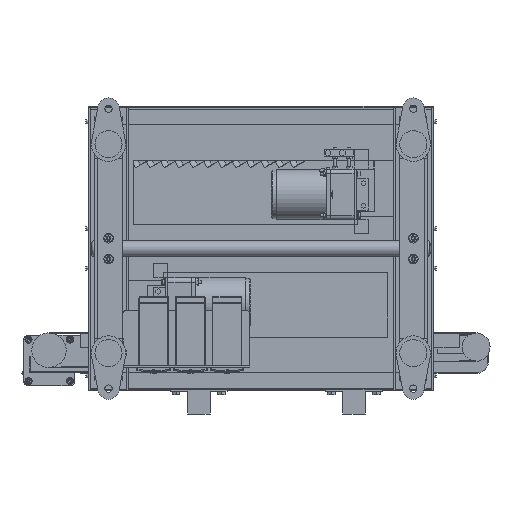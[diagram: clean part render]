
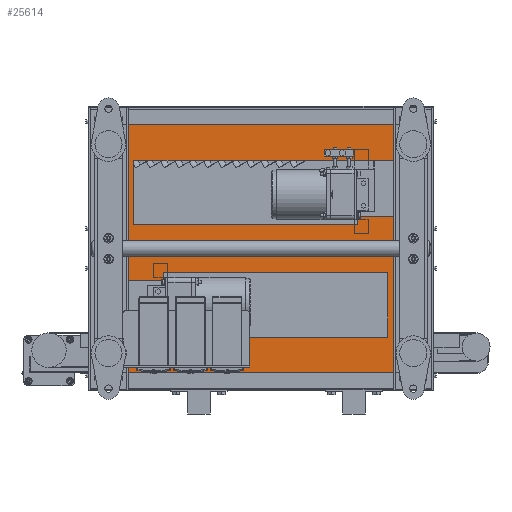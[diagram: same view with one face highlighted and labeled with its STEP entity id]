
A CAD part, front view. The second image highlights one B-rep face of the part: STEP entity #25614.
In plain terms, the highlighted planar face has unit normal (0, -1, 0).
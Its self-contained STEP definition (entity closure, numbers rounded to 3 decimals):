
#1162 = DIRECTION ( 'NONE',  ( -1., 0., 0. ) ) ;
#1723 = VERTEX_POINT ( 'NONE', #37562 ) ;
#2247 = EDGE_CURVE ( 'NONE', #33571, #1723, #57638, .T. ) ;
#3009 = EDGE_CURVE ( 'NONE', #9874, #6077, #37736, .T. ) ;
#3532 = DIRECTION ( 'NONE',  ( 0., 0., -1. ) ) ;
#3732 = DIRECTION ( 'NONE',  ( 0., 0., 1. ) ) ;
#3822 = ORIENTED_EDGE ( 'NONE', *, *, #2247, .F. ) ;
#3841 = EDGE_CURVE ( 'NONE', #21197, #33571, #6786, .T. ) ;
#4147 = VECTOR ( 'NONE', #9342, 1000. ) ;
#5723 = EDGE_CURVE ( 'NONE', #45231, #6252, #20492, .T. ) ;
#6077 = VERTEX_POINT ( 'NONE', #21363 ) ;
#6153 = VERTEX_POINT ( 'NONE', #47169 ) ;
#6252 = VERTEX_POINT ( 'NONE', #47934 ) ;
#6642 = VERTEX_POINT ( 'NONE', #13935 ) ;
#6786 = LINE ( 'NONE', #9918, #58744 ) ;
#7434 = VECTOR ( 'NONE', #42409, 1000. ) ;
#7744 = EDGE_LOOP ( 'NONE', ( #30331, #27694, #57233, #56959, #50850, #3822 ) ) ;
#7754 = DIRECTION ( 'NONE',  ( 0., 0., 1. ) ) ;
#8602 = VERTEX_POINT ( 'NONE', #18330 ) ;
#8614 = LINE ( 'NONE', #12167, #21485 ) ;
#9093 = EDGE_LOOP ( 'NONE', ( #30354, #16414, #27563, #49793 ) ) ;
#9342 = DIRECTION ( 'NONE',  ( -1., 0., 0. ) ) ;
#9874 = VERTEX_POINT ( 'NONE', #18996 ) ;
#9918 = CARTESIAN_POINT ( 'NONE',  ( 133., -93., -57. ) ) ;
#10047 = EDGE_CURVE ( 'NONE', #6252, #22116, #37700, .T. ) ;
#11144 = ORIENTED_EDGE ( 'NONE', *, *, #49853, .F. ) ;
#11772 = LINE ( 'NONE', #13444, #22408 ) ;
#12039 = CARTESIAN_POINT ( 'NONE',  ( 80., -93., 157. ) ) ;
#12167 = CARTESIAN_POINT ( 'NONE',  ( 570., -93., 57. ) ) ;
#12377 = DIRECTION ( 'NONE',  ( 1., 0., 0. ) ) ;
#12773 = EDGE_CURVE ( 'NONE', #8602, #38094, #33765, .T. ) ;
#13066 = VECTOR ( 'NONE', #3532, 1000. ) ;
#13444 = CARTESIAN_POINT ( 'NONE',  ( 610., -93., -247. ) ) ;
#13663 = DIRECTION ( 'NONE',  ( 1., 0., 0. ) ) ;
#13757 = VECTOR ( 'NONE', #30078, 1000. ) ;
#13935 = CARTESIAN_POINT ( 'NONE',  ( 80., -93., 157. ) ) ;
#14764 = EDGE_CURVE ( 'NONE', #6642, #49547, #38572, .T. ) ;
#16160 = EDGE_LOOP ( 'NONE', ( #47959, #48393, #47630, #47209, #34387, #11144 ) ) ;
#16196 = VERTEX_POINT ( 'NONE', #52867 ) ;
#16414 = ORIENTED_EDGE ( 'NONE', *, *, #5723, .T. ) ;
#16683 = CARTESIAN_POINT ( 'NONE',  ( 80., -93., 42. ) ) ;
#16723 = EDGE_CURVE ( 'NONE', #22116, #48797, #11772, .T. ) ;
#16875 = DIRECTION ( 'NONE',  ( 0., 0., -1. ) ) ;
#17975 = FACE_OUTER_BOUND ( 'NONE', #9093, .T. ) ;
#18330 = CARTESIAN_POINT ( 'NONE',  ( 477., -93., 42. ) ) ;
#18722 = EDGE_CURVE ( 'NONE', #49547, #8602, #46672, .T. ) ;
#18996 = CARTESIAN_POINT ( 'NONE',  ( 530., -93., -157. ) ) ;
#19963 = CARTESIAN_POINT ( 'NONE',  ( 570., -93., 157. ) ) ;
#20492 = LINE ( 'NONE', #49239, #58285 ) ;
#21197 = VERTEX_POINT ( 'NONE', #38929 ) ;
#21304 = DIRECTION ( 'NONE',  ( 0., 0., 1. ) ) ;
#21363 = CARTESIAN_POINT ( 'NONE',  ( 530., -93., -42. ) ) ;
#21485 = VECTOR ( 'NONE', #12377, 1000. ) ;
#21630 = CARTESIAN_POINT ( 'NONE',  ( 40., -93., -157. ) ) ;
#22116 = VERTEX_POINT ( 'NONE', #42442 ) ;
#22210 = CARTESIAN_POINT ( 'NONE',  ( 570., -93., 57. ) ) ;
#22408 = VECTOR ( 'NONE', #13663, 1000. ) ;
#25232 = CARTESIAN_POINT ( 'NONE',  ( 607., -93., 247. ) ) ;
#25574 = VECTOR ( 'NONE', #45467, 1000. ) ;
#25595 = CARTESIAN_POINT ( 'NONE',  ( 607., -93., 500000. ) ) ;
#25614 = ADVANCED_FACE ( 'NONE', ( #52273, #40065, #17975 ), #37387, .F. ) ;
#26128 = DIRECTION ( 'NONE',  ( 1., 0., 0. ) ) ;
#26337 = DIRECTION ( 'NONE',  ( 0., 0., -1. ) ) ;
#27023 = DIRECTION ( 'NONE',  ( 1., 0., 0. ) ) ;
#27563 = ORIENTED_EDGE ( 'NONE', *, *, #10047, .T. ) ;
#27694 = ORIENTED_EDGE ( 'NONE', *, *, #36041, .F. ) ;
#28585 = EDGE_CURVE ( 'NONE', #45231, #48797, #30807, .T. ) ;
#29382 = LINE ( 'NONE', #52494, #13757 ) ;
#29804 = CARTESIAN_POINT ( 'NONE',  ( 477., -93., 57. ) ) ;
#29979 = VECTOR ( 'NONE', #26128, 1000. ) ;
#30078 = DIRECTION ( 'NONE',  ( -1., 0., 0. ) ) ;
#30331 = ORIENTED_EDGE ( 'NONE', *, *, #3841, .F. ) ;
#30354 = ORIENTED_EDGE ( 'NONE', *, *, #28585, .F. ) ;
#30687 = CARTESIAN_POINT ( 'NONE',  ( 607., -93., -247. ) ) ;
#30807 = LINE ( 'NONE', #25595, #13066 ) ;
#31271 = VERTEX_POINT ( 'NONE', #19963 ) ;
#31569 = LINE ( 'NONE', #12039, #7434 ) ;
#33070 = VECTOR ( 'NONE', #21304, 1000. ) ;
#33571 = VERTEX_POINT ( 'NONE', #44400 ) ;
#33765 = LINE ( 'NONE', #29804, #33070 ) ;
#34387 = ORIENTED_EDGE ( 'NONE', *, *, #44102, .F. ) ;
#36041 = EDGE_CURVE ( 'NONE', #6077, #21197, #29382, .T. ) ;
#36629 = CARTESIAN_POINT ( 'NONE',  ( 3., -93., 500000. ) ) ;
#37387 = PLANE ( 'NONE',  #41008 ) ;
#37562 = CARTESIAN_POINT ( 'NONE',  ( 40., -93., -57. ) ) ;
#37700 = LINE ( 'NONE', #36629, #25574 ) ;
#37736 = LINE ( 'NONE', #48824, #52768 ) ;
#37811 = LINE ( 'NONE', #22210, #42855 ) ;
#38094 = VERTEX_POINT ( 'NONE', #44490 ) ;
#38572 = LINE ( 'NONE', #16683, #39984 ) ;
#38929 = CARTESIAN_POINT ( 'NONE',  ( 133., -93., -42. ) ) ;
#39456 = EDGE_CURVE ( 'NONE', #1723, #16196, #50780, .T. ) ;
#39686 = CARTESIAN_POINT ( 'NONE',  ( 530., -93., -157. ) ) ;
#39984 = VECTOR ( 'NONE', #16875, 1000. ) ;
#40065 = FACE_BOUND ( 'NONE', #7744, .T. ) ;
#41008 = AXIS2_PLACEMENT_3D ( 'NONE', #42432, #55735, #1162 ) ;
#41169 = DIRECTION ( 'NONE',  ( 0., 0., -1. ) ) ;
#41382 = CARTESIAN_POINT ( 'NONE',  ( 80., -93., 42. ) ) ;
#42409 = DIRECTION ( 'NONE',  ( -1., 0., 0. ) ) ;
#42432 = CARTESIAN_POINT ( 'NONE',  ( 610., -93., 500000. ) ) ;
#42442 = CARTESIAN_POINT ( 'NONE',  ( 3., -93., -247. ) ) ;
#42855 = VECTOR ( 'NONE', #3732, 1000. ) ;
#43605 = LINE ( 'NONE', #39686, #29979 ) ;
#44102 = EDGE_CURVE ( 'NONE', #6153, #31271, #37811, .T. ) ;
#44400 = CARTESIAN_POINT ( 'NONE',  ( 133., -93., -57. ) ) ;
#44490 = CARTESIAN_POINT ( 'NONE',  ( 477., -93., 57. ) ) ;
#44664 = EDGE_CURVE ( 'NONE', #31271, #6642, #31569, .T. ) ;
#45231 = VERTEX_POINT ( 'NONE', #25232 ) ;
#45254 = VECTOR ( 'NONE', #27023, 1000. ) ;
#45467 = DIRECTION ( 'NONE',  ( 0., 0., -1. ) ) ;
#45884 = EDGE_CURVE ( 'NONE', #16196, #9874, #43605, .T. ) ;
#46672 = LINE ( 'NONE', #41382, #45254 ) ;
#47169 = CARTESIAN_POINT ( 'NONE',  ( 570., -93., 57. ) ) ;
#47209 = ORIENTED_EDGE ( 'NONE', *, *, #44664, .F. ) ;
#47630 = ORIENTED_EDGE ( 'NONE', *, *, #14764, .F. ) ;
#47934 = CARTESIAN_POINT ( 'NONE',  ( 3., -93., 247. ) ) ;
#47959 = ORIENTED_EDGE ( 'NONE', *, *, #12773, .F. ) ;
#48393 = ORIENTED_EDGE ( 'NONE', *, *, #18722, .F. ) ;
#48797 = VERTEX_POINT ( 'NONE', #30687 ) ;
#48824 = CARTESIAN_POINT ( 'NONE',  ( 530., -93., -157. ) ) ;
#49239 = CARTESIAN_POINT ( 'NONE',  ( 610., -93., 247. ) ) ;
#49547 = VERTEX_POINT ( 'NONE', #55971 ) ;
#49793 = ORIENTED_EDGE ( 'NONE', *, *, #16723, .T. ) ;
#49853 = EDGE_CURVE ( 'NONE', #38094, #6153, #8614, .T. ) ;
#50780 = LINE ( 'NONE', #21630, #56479 ) ;
#50850 = ORIENTED_EDGE ( 'NONE', *, *, #39456, .F. ) ;
#52273 = FACE_BOUND ( 'NONE', #16160, .T. ) ;
#52494 = CARTESIAN_POINT ( 'NONE',  ( 530., -93., -42. ) ) ;
#52768 = VECTOR ( 'NONE', #7754, 1000. ) ;
#52867 = CARTESIAN_POINT ( 'NONE',  ( 40., -93., -157. ) ) ;
#53794 = DIRECTION ( 'NONE',  ( -1., 0., 0. ) ) ;
#54559 = CARTESIAN_POINT ( 'NONE',  ( 40., -93., -57. ) ) ;
#55735 = DIRECTION ( 'NONE',  ( 0., 1., 0. ) ) ;
#55971 = CARTESIAN_POINT ( 'NONE',  ( 80., -93., 42. ) ) ;
#56479 = VECTOR ( 'NONE', #26337, 1000. ) ;
#56959 = ORIENTED_EDGE ( 'NONE', *, *, #45884, .F. ) ;
#57233 = ORIENTED_EDGE ( 'NONE', *, *, #3009, .F. ) ;
#57638 = LINE ( 'NONE', #54559, #4147 ) ;
#58285 = VECTOR ( 'NONE', #53794, 1000. ) ;
#58744 = VECTOR ( 'NONE', #41169, 1000. ) ;
